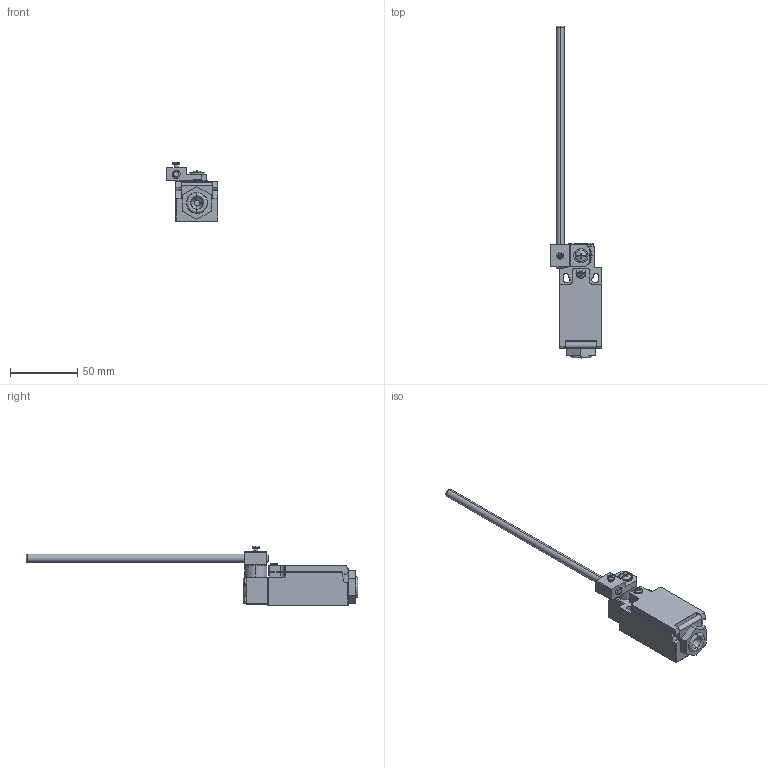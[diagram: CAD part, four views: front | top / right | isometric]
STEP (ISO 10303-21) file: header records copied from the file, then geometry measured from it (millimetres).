
FILE_DESCRIPTION (( 'STEP AP203' ), '1' );
FILE_NAME ('FM9207.STEP', '2018-06-01T16:57:26', ( '' ), ( '' ), 'SwSTEP 2.0', 'SolidWorks 2012', '' );
FILE_SCHEMA (( 'CONFIG_CONTROL_DESIGN' ));
Length unit declared in the file: millimetre
Products named in the file (1): FM9207
Bounding box: 38.65 x 246.8 x 44.4 mm (x, y, z)
Volume: 72382.6 mm3; surface area: 17408.9 mm2
Topology: 1 solids, 1 shells, 316 faces, 846 edges, 542 vertices
Faces by surface type: plane 205, cylinder 78, torus 23, sphere 6, bspline 2, cone 2
Entity records: 10217 total; most frequent: CARTESIAN_POINT 2152, ORIENTED_EDGE 1684, DIRECTION 1655, EDGE_CURVE 842, LINE 581, VECTOR 581, VERTEX_POINT 542, AXIS2_PLACEMENT_3D 537
